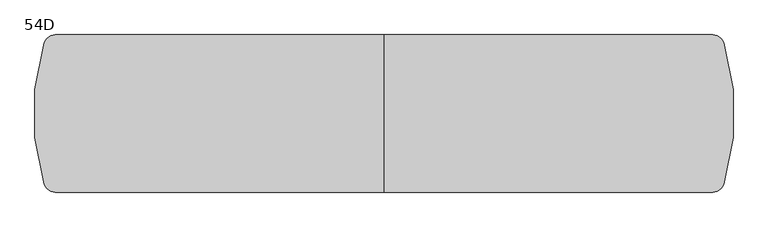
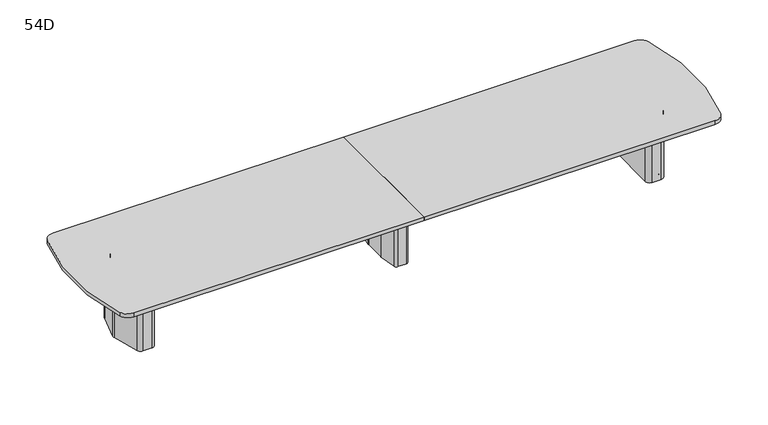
"""IFC4 building model written with IfcOpenShell, lengths in millimetres: furniture geometry, Coalesse_AM_Table_Conference_ETable2_SoftRadiused_20ft_ThreeBase : 54D."""

from ifc_helpers import new_model, si_unit, point, frame, frame_2d, origin, place, context, project, spatial, polyline, circle_curve, trimmed, segment, composite_curve, outline, extrude, source, transform, mapped, element, save
from ifc_brep_helpers import plane_surface, cylinder_surface, revolved_surface, advanced_brep


def furniture_54d_1fc843b9(model_context):
    return source(origin(), model_context, "Body", "SolidModel", [
        advanced_brep(
        [(35.71875, 206.375, 3.175), (10.31875, 231.775, 3.175), (-10.31875, 231.775, 3.175), (-35.71875, 206.375, 3.175), (-35.71875, -206.375, 3.175), (-10.31875, -231.775, 3.175), (10.31875, -231.775, 3.175), (35.71875, -206.375, 3.175), (-61.11875, 206.375, 0.0), (-10.31875, 257.175, 0.0), (10.31875, 257.175, 0.0), (61.11875, 206.375, 0.0), (61.11875, -206.375, 0.0), (10.31875, -257.175, 0.0), (-10.31875, -257.175, 0.0), (-61.11875, -206.375, 0.0), (-61.11875, -206.375, 3.175), (-61.11875, 206.375, 3.175), (-10.31875, -257.175, 3.175), (10.31875, -257.175, 3.175), (61.11875, -206.375, 3.175), (61.11875, 206.375, 3.175), (10.31875, 257.175, 3.175), (-10.31875, 257.175, 3.175), (-92.6215974, 106.2976848, 698.5), (-92.86875, 102.7629613, 698.5), (-92.86875, -102.7629613, 698.5), (-92.6215974, -106.2976848, 698.5), (-67.7988375, -282.9347235, 698.5), (-42.6459902, -304.8, 698.5), (42.6459902, -304.8, 698.5), (67.7988375, -282.9347235, 698.5), (92.6215974, -106.2976848, 698.5), (92.86875, -102.7629613, 698.5), (92.86875, 102.7629613, 698.5), (92.6215974, 106.2976848, 698.5), (67.7988375, 282.9347235, 698.5), (42.6459902, 304.8, 698.5), (-42.6459902, 304.8, 698.5), (-67.7988375, 282.9347235, 698.5), (10.31875, 231.775, 698.5), (35.71875, 206.375, 698.5), (35.71875, -206.375, 698.5), (10.31875, -231.775, 698.5), (-10.31875, -231.775, 698.5), (-35.71875, -206.375, 698.5), (-35.71875, 206.375, 698.5), (-10.31875, 231.775, 698.5), (-92.6215974, 106.2976848, 3.175), (-67.7988375, 282.9347235, 3.175), (-42.6459902, 304.8, 3.175), (42.6459902, 304.8, 3.175), (67.7988375, 282.9347235, 3.175), (92.6215974, 106.2976848, 3.175), (92.86875, 102.7629613, 3.175), (92.86875, -102.7629613, 3.175), (92.6215974, -106.2976848, 3.175), (67.7988375, -282.9347235, 3.175), (42.6459902, -304.8, 3.175), (-42.6459902, -304.8, 3.175), (-67.7988375, -282.9347235, 3.175), (-92.6215974, -106.2976848, 3.175), (-92.86875, -102.7629613, 3.175), (-92.86875, 102.7629613, 3.175)],
        [
            (0, 1, circle_curve(frame((10.31875, 206.375, 3.175), z_axis=(0.0, 0.0, 1.0), x_axis=(1.0, 0.0, 0.0)), 25.4)),
            (1, 2),
            (2, 3, circle_curve(frame((-10.31875, 206.375, 3.175), z_axis=(0.0, 0.0, 1.0), x_axis=(1.0, 0.0, 0.0)), 25.4)),
            (3, 4),
            (4, 5, circle_curve(frame((-10.31875, -206.375, 3.175), z_axis=(0.0, 0.0, 1.0), x_axis=(1.0, 0.0, 0.0)), 25.4)),
            (5, 6),
            (6, 7, circle_curve(frame((10.31875, -206.375, 3.175), z_axis=(0.0, 0.0, 1.0), x_axis=(1.0, 0.0, 0.0)), 25.4)),
            (7, 0),
            (8, 9, circle_curve(frame((-10.31875, 206.375, 0.0), z_axis=(0.0, 0.0, -1.0), x_axis=(1.0, 0.0, 0.0)), 50.8)),
            (9, 10),
            (10, 11, circle_curve(frame((10.31875, 206.375, 0.0), z_axis=(0.0, 0.0, -1.0), x_axis=(1.0, 0.0, 0.0)), 50.8)),
            (11, 12),
            (12, 13, circle_curve(frame((10.31875, -206.375, 0.0), z_axis=(0.0, 0.0, -1.0), x_axis=(1.0, 0.0, 0.0)), 50.8)),
            (13, 14),
            (14, 15, circle_curve(frame((-10.31875, -206.375, 0.0), z_axis=(0.0, 0.0, -1.0), x_axis=(1.0, 0.0, 0.0)), 50.8)),
            (15, 8),
            (15, 16),
            (16, 17),
            (17, 8),
            (14, 18),
            (18, 16, circle_curve(frame((-10.31875, -206.375, 3.175), z_axis=(0.0, 0.0, -1.0), x_axis=(1.0, 0.0, 0.0)), 50.8)),
            (13, 19),
            (19, 18),
            (12, 20),
            (20, 19, circle_curve(frame((10.31875, -206.375, 3.175), z_axis=(0.0, 0.0, -1.0), x_axis=(1.0, 0.0, 0.0)), 50.8)),
            (11, 21),
            (21, 20),
            (10, 22),
            (22, 21, circle_curve(frame((10.31875, 206.375, 3.175), z_axis=(0.0, 0.0, -1.0), x_axis=(1.0, 0.0, 0.0)), 50.8)),
            (9, 23),
            (23, 22),
            (17, 23, circle_curve(frame((-10.31875, 206.375, 3.175), z_axis=(0.0, 0.0, -1.0), x_axis=(1.0, 0.0, 0.0)), 50.8)),
            (24, 25, circle_curve(frame((-67.46875, 102.7629613, 698.5), z_axis=(0.0, 0.0, 1.0), x_axis=(1.0, 0.0, 0.0)), 25.4)),
            (25, 26),
            (26, 27, circle_curve(frame((-67.46875, -102.7629613, 698.5), z_axis=(0.0, 0.0, 1.0), x_axis=(1.0, 0.0, 0.0)), 25.4)),
            (27, 28),
            (28, 29, circle_curve(frame((-42.6459902, -279.4, 698.5), z_axis=(0.0, 0.0, 1.0), x_axis=(1.0, 0.0, 0.0)), 25.4)),
            (29, 30),
            (30, 31, circle_curve(frame((42.6459902, -279.4, 698.5), z_axis=(0.0, 0.0, 1.0), x_axis=(1.0, 0.0, 0.0)), 25.4)),
            (31, 32),
            (32, 33, circle_curve(frame((67.46875, -102.7629613, 698.5), z_axis=(0.0, 0.0, 1.0), x_axis=(1.0, 0.0, 0.0)), 25.4)),
            (33, 34),
            (34, 35, circle_curve(frame((67.46875, 102.7629613, 698.5), z_axis=(0.0, 0.0, 1.0), x_axis=(1.0, 0.0, 0.0)), 25.4)),
            (35, 36),
            (36, 37, circle_curve(frame((42.6459902, 279.4, 698.5), z_axis=(0.0, 0.0, 1.0), x_axis=(1.0, 0.0, 0.0)), 25.4)),
            (37, 38),
            (38, 39, circle_curve(frame((-42.6459902, 279.4, 698.5), z_axis=(0.0, 0.0, 1.0), x_axis=(1.0, 0.0, 0.0)), 25.4)),
            (39, 24),
            (40, 41, circle_curve(frame((10.31875, 206.375, 698.5), z_axis=(0.0, 0.0, -1.0), x_axis=(1.0, 0.0, 0.0)), 25.4)),
            (41, 42),
            (42, 43, circle_curve(frame((10.31875, -206.375, 698.5), z_axis=(0.0, 0.0, -1.0), x_axis=(1.0, 0.0, 0.0)), 25.4)),
            (43, 44),
            (44, 45, circle_curve(frame((-10.31875, -206.375, 698.5), z_axis=(0.0, 0.0, -1.0), x_axis=(1.0, 0.0, 0.0)), 25.4)),
            (45, 46),
            (46, 47, circle_curve(frame((-10.31875, 206.375, 698.5), z_axis=(0.0, 0.0, -1.0), x_axis=(1.0, 0.0, 0.0)), 25.4)),
            (47, 40),
            (48, 49),
            (49, 50, circle_curve(frame((-42.6459902, 279.4, 3.175), z_axis=(0.0, 0.0, -1.0), x_axis=(1.0, 0.0, 0.0)), 25.4)),
            (50, 51),
            (51, 52, circle_curve(frame((42.6459902, 279.4, 3.175), z_axis=(0.0, 0.0, -1.0), x_axis=(1.0, 0.0, 0.0)), 25.4)),
            (52, 53),
            (53, 54, circle_curve(frame((67.46875, 102.7629613, 3.175), z_axis=(0.0, 0.0, -1.0), x_axis=(1.0, 0.0, 0.0)), 25.4)),
            (54, 55),
            (55, 56, circle_curve(frame((67.46875, -102.7629613, 3.175), z_axis=(0.0, 0.0, -1.0), x_axis=(1.0, 0.0, 0.0)), 25.4)),
            (56, 57),
            (57, 58, circle_curve(frame((42.6459902, -279.4, 3.175), z_axis=(0.0, 0.0, -1.0), x_axis=(1.0, 0.0, 0.0)), 25.4)),
            (58, 59),
            (59, 60, circle_curve(frame((-42.6459902, -279.4, 3.175), z_axis=(0.0, 0.0, -1.0), x_axis=(1.0, 0.0, 0.0)), 25.4)),
            (60, 61),
            (61, 62, circle_curve(frame((-67.46875, -102.7629613, 3.175), z_axis=(0.0, 0.0, -1.0), x_axis=(1.0, 0.0, 0.0)), 25.4)),
            (62, 63),
            (63, 48, circle_curve(frame((-67.46875, 102.7629613, 3.175), z_axis=(0.0, 0.0, -1.0), x_axis=(1.0, 0.0, 0.0)), 25.4)),
            (24, 48),
            (63, 25),
            (62, 26),
            (61, 27),
            (60, 28),
            (59, 29),
            (58, 30),
            (57, 31),
            (56, 32),
            (55, 33),
            (54, 34),
            (53, 35),
            (52, 36),
            (51, 37),
            (50, 38),
            (49, 39),
            (40, 1),
            (0, 41),
            (7, 42),
            (6, 43),
            (5, 44),
            (4, 45),
            (3, 46),
            (2, 47),
        ],
        [
            plane_surface(frame((-61.11875, -206.375, 3.175), z_axis=(0.0, 0.0, 1.0), x_axis=(0.0, -1.0, 0.0))),
            plane_surface(frame((-61.11875, -206.375, 0.0), z_axis=(0.0, 0.0, -1.0), x_axis=(0.0, 1.0, 0.0))),
            plane_surface(frame((-61.11875, 206.375, 3.175), z_axis=(-1.0, 0.0, 0.0), x_axis=(0.0, 0.0, -1.0))),
            cylinder_surface(frame((-10.31875, -206.375, 0.0), z_axis=(0.0, 0.0, 1.0), x_axis=(1.0, 0.0, 0.0)), 50.8),
            plane_surface(frame((-10.31875, -257.175, 3.175), z_axis=(0.0, -1.0, 0.0), x_axis=(0.0, 0.0, -1.0))),
            cylinder_surface(frame((10.31875, -206.375, 0.0), z_axis=(0.0, 0.0, 1.0), x_axis=(1.0, 0.0, 0.0)), 50.8),
            plane_surface(frame((61.11875, -206.375, 3.175), z_axis=(1.0, 0.0, 0.0), x_axis=(0.0, 0.0, -1.0))),
            cylinder_surface(frame((10.31875, 206.375, 0.0), z_axis=(0.0, 0.0, 1.0), x_axis=(1.0, 0.0, 0.0)), 50.8),
            plane_surface(frame((10.31875, 257.175, 3.175), z_axis=(0.0, 1.0, 0.0), x_axis=(0.0, 0.0, -1.0))),
            cylinder_surface(frame((-10.31875, 206.375, 0.0), z_axis=(0.0, 0.0, 1.0), x_axis=(1.0, 0.0, 0.0)), 50.8),
            plane_surface(frame((-42.06875, 102.7629613, 698.5), z_axis=(0.0, 0.0, 1.0), x_axis=(0.0, 1.0, 0.0))),
            plane_surface(frame((-42.06875, 102.7629613, 3.175), z_axis=(0.0, 0.0, -1.0), x_axis=(0.0, -1.0, 0.0))),
            cylinder_surface(frame((-67.46875, 102.7629613, 3.175), z_axis=(0.0, 0.0, 1.0), x_axis=(1.0, 0.0, 0.0)), 25.4),
            plane_surface(frame((-92.86875, 102.7629613, 698.5), z_axis=(-1.0, 0.0, 0.0), x_axis=(0.0, 0.0, -1.0))),
            cylinder_surface(frame((-67.46875, -102.7629613, 3.175), z_axis=(0.0, 0.0, 1.0), x_axis=(1.0, 0.0, 0.0)), 25.4),
            plane_surface(frame((-92.6215974, -106.2976848, 698.5), z_axis=(-0.9902695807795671, -0.13916234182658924, 0.0), x_axis=(0.0, 0.0, -1.0))),
            cylinder_surface(frame((-42.6459902, -279.4, 3.175), z_axis=(0.0, 0.0, 1.0), x_axis=(1.0, 0.0, 0.0)), 25.4),
            plane_surface(frame((-42.6459902, -304.8, 698.5), z_axis=(0.0, -1.0, 0.0), x_axis=(0.0, 0.0, -1.0))),
            cylinder_surface(frame((42.6459902, -279.4, 3.175), z_axis=(0.0, 0.0, 1.0), x_axis=(1.0, 0.0, 0.0)), 25.4),
            plane_surface(frame((67.7988375, -282.9347235, 698.5), z_axis=(0.9902695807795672, -0.13916234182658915, 0.0), x_axis=(0.0, 0.0, -1.0))),
            cylinder_surface(frame((67.46875, -102.7629613, 3.175), z_axis=(0.0, 0.0, 1.0), x_axis=(1.0, 0.0, 0.0)), 25.4),
            plane_surface(frame((92.86875, -102.7629613, 698.5), z_axis=(1.0, 0.0, 0.0), x_axis=(0.0, 0.0, -1.0))),
            cylinder_surface(frame((67.46875, 102.7629613, 3.175), z_axis=(0.0, 0.0, 1.0), x_axis=(1.0, 0.0, 0.0)), 25.4),
            plane_surface(frame((92.6215974, 106.2976848, 698.5), z_axis=(0.9902695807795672, 0.1391623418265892, 0.0), x_axis=(0.0, 0.0, -1.0))),
            cylinder_surface(frame((42.6459902, 279.4, 3.175), z_axis=(0.0, 0.0, 1.0), x_axis=(1.0, 0.0, 0.0)), 25.4),
            plane_surface(frame((42.6459902, 304.8, 698.5), z_axis=(0.0, 1.0, 0.0), x_axis=(0.0, 0.0, -1.0))),
            cylinder_surface(frame((-42.6459902, 279.4, 3.175), z_axis=(0.0, 0.0, 1.0), x_axis=(1.0, 0.0, 0.0)), 25.4),
            plane_surface(frame((-67.7988375, 282.9347235, 698.5), z_axis=(-0.9902695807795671, 0.13916234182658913, 0.0), x_axis=(0.0, 0.0, -1.0))),
            revolved_surface(polyline([(35.71875, 206.375, 3.175), (35.71875, 206.375, 698.5)]), (10.31875, 206.375, 0.0), (0.0, 0.0, -1.0)),
            plane_surface(frame((35.71875, 206.375, 698.5), z_axis=(-1.0, 0.0, 0.0), x_axis=(0.0, 0.0, -1.0))),
            revolved_surface(polyline([(35.71875, -206.375, 3.175), (35.71875, -206.375, 698.5)]), (10.31875, -206.375, 0.0), (0.0, 0.0, -1.0)),
            plane_surface(frame((10.31875, -231.775, 698.5), z_axis=(0.0, 1.0, 0.0), x_axis=(0.0, 0.0, -1.0))),
            revolved_surface(polyline([(15.081249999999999, -206.375, 3.175), (15.081249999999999, -206.375, 698.5)]), (-10.31875, -206.375, 0.0), (0.0, 0.0, -1.0)),
            plane_surface(frame((-35.71875, -206.375, 698.5), z_axis=(1.0, 0.0, 0.0), x_axis=(0.0, 0.0, -1.0))),
            revolved_surface(polyline([(15.081249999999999, 206.375, 3.175), (15.081249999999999, 206.375, 698.5)]), (-10.31875, 206.375, 0.0), (0.0, 0.0, -1.0)),
            plane_surface(frame((-10.31875, 231.775, 698.5), z_axis=(0.0, -1.0, 0.0), x_axis=(0.0, 0.0, -1.0))),
        ],
        [
            (0, [[1, 2, 3, 4, 5, 6, 7, 8]]),
            (1, [[9, 10, 11, 12, 13, 14, 15, 16]]),
            (2, [[-16, 17, 18, 19]]),
            (3, [[-15, 20, 21, -17]]),
            (4, [[-14, 22, 23, -20]]),
            (5, [[-13, 24, 25, -22]]),
            (6, [[-12, 26, 27, -24]]),
            (7, [[-11, 28, 29, -26]]),
            (8, [[-10, 30, 31, -28]]),
            (9, [[-9, -19, 32, -30]]),
            (10, [[33, 34, 35, 36, 37, 38, 39, 40, 41, 42, 43, 44, 45, 46, 47, 48], [49, 50, 51, 52, 53, 54, 55, 56]]),
            (11, [[57, 58, 59, 60, 61, 62, 63, 64, 65, 66, 67, 68, 69, 70, 71, 72], [-18, -21, -23, -25, -27, -29, -31, -32]]),
            (12, [[-33, 73, -72, 74]]),
            (13, [[-34, -74, -71, 75]]),
            (14, [[-35, -75, -70, 76]]),
            (15, [[-36, -76, -69, 77]]),
            (16, [[-37, -77, -68, 78]]),
            (17, [[-38, -78, -67, 79]]),
            (18, [[-39, -79, -66, 80]]),
            (19, [[-40, -80, -65, 81]]),
            (20, [[-41, -81, -64, 82]]),
            (21, [[-42, -82, -63, 83]]),
            (22, [[-43, -83, -62, 84]]),
            (23, [[-44, -84, -61, 85]]),
            (24, [[-45, -85, -60, 86]]),
            (25, [[-46, -86, -59, 87]]),
            (26, [[-47, -87, -58, 88]]),
            (27, [[-48, -88, -57, -73]]),
            (28, [[-49, 89, -1, 90]]),
            (29, [[-50, -90, -8, 91]]),
            (30, [[-51, -91, -7, 92]]),
            (31, [[-52, -92, -6, 93]]),
            (32, [[-53, -93, -5, 94]]),
            (33, [[-54, -94, -4, 95]]),
            (34, [[-55, -95, -3, 96]]),
            (35, [[-56, -96, -2, -89]]),
        ],
    ),
        advanced_brep(
        [(2589.424548, 274.2093613, 698.5), (2549.5579246, 304.8, 698.5), (2460.625, 304.8, 698.5), (2419.35, 263.525, 698.5), (2419.35, -263.525, 698.5), (2460.625, -304.8, 698.5), (2549.5579246, -304.8, 698.5), (2589.424548, -274.2093613, 698.5), (2660.0503901, -10.6333708, 698.5), (2660.0503901, 10.6333708, 698.5), (2457.45, -206.375, 698.5), (2457.45, 206.375, 698.5), (2482.85, 231.775, 698.5), (2541.8608422, 231.775, 698.5), (2566.395338, 212.9490792, 698.5), (2605.0875, 68.54974, 698.5), (2605.0875, -68.54974, 698.5), (2566.395338, -212.9490792, 698.5), (2541.8608422, -231.775, 698.5), (2482.85, -231.775, 698.5), (2589.424548, 274.2093613, 3.175), (2660.0503901, 10.6333708, 3.175), (2660.0503901, -10.6333708, 3.175), (2589.424548, -274.2093613, 3.175), (2549.5579246, -304.8, 3.175), (2460.625, -304.8, 3.175), (2419.35, -263.525, 3.175), (2419.35, 263.525, 3.175), (2460.625, 304.8, 3.175), (2549.5579246, 304.8, 3.175), (2578.6625859, 216.2361187, 3.175), (2541.8608422, 244.475, 3.175), (2482.85, 244.475, 3.175), (2444.75, 206.375, 3.175), (2444.75, -206.375, 3.175), (2482.85, -244.475, 3.175), (2541.8608422, -244.475, 3.175), (2578.6625859, -216.2361187, 3.175), (2617.7875, -70.2217466, 3.175), (2617.7875, 70.2217466, 3.175), (2482.85, -231.775, 3.175), (2457.45, -206.375, 3.175), (2541.8608422, -231.775, 3.175), (2566.395338, -212.9490792, 3.175), (2605.0875, -68.54974, 3.175), (2605.0875, 68.54974, 3.175), (2566.395338, 212.9490792, 3.175), (2541.8608422, 231.775, 3.175), (2482.85, 231.775, 3.175), (2457.45, 206.375, 3.175), (2578.6625859, 216.2361187, 0.0), (2617.7875, 70.2217466, 0.0), (2617.7875, -70.2217466, 0.0), (2578.6625859, -216.2361187, 0.0), (2541.8608422, -244.475, 0.0), (2482.85, -244.475, 0.0), (2444.75, -206.375, 0.0), (2444.75, 206.375, 0.0), (2482.85, 244.475, 0.0), (2541.8608422, 244.475, 0.0)],
        [
            (0, 1, circle_curve(frame((2549.5579246, 263.5270004, 698.5), z_axis=(0.0, 0.0, 1.0), x_axis=(-1.0, 0.0, 0.0)), 41.2729996)),
            (1, 2),
            (2, 3, circle_curve(frame((2460.625, 263.525, 698.5), z_axis=(0.0, 0.0, 1.0), x_axis=(-1.0, 0.0, 0.0)), 41.275)),
            (3, 4),
            (4, 5, circle_curve(frame((2460.625, -263.525, 698.5), z_axis=(0.0, 0.0, 1.0), x_axis=(-1.0, 0.0, 0.0)), 41.275)),
            (5, 6),
            (6, 7, circle_curve(frame((2549.5579246, -263.5270004, 698.5), z_axis=(0.0, 0.0, 1.0), x_axis=(-1.0, 0.0, 0.0)), 41.2729996)),
            (7, 8),
            (8, 9, circle_curve(frame((2620.3665979, 0.0, 698.5), z_axis=(0.0, 0.0, 1.0), x_axis=(-1.0, 0.0, 0.0)), 41.0837187)),
            (9, 0),
            (10, 11),
            (11, 12, circle_curve(frame((2482.85, 206.375, 698.5), z_axis=(0.0, 0.0, -1.0), x_axis=(-1.0, 0.0, 0.0)), 25.4)),
            (12, 13),
            (13, 14, circle_curve(frame((2541.8608422, 206.375, 698.5), z_axis=(0.0, 0.0, -1.0), x_axis=(-1.0, 0.0, 0.0)), 25.4)),
            (14, 15),
            (15, 16),
            (16, 17),
            (17, 18, circle_curve(frame((2541.8608422, -206.375, 698.5), z_axis=(0.0, 0.0, -1.0), x_axis=(-1.0, 0.0, 0.0)), 25.4)),
            (18, 19),
            (19, 10, circle_curve(frame((2482.85, -206.375, 698.5), z_axis=(0.0, 0.0, -1.0), x_axis=(-1.0, 0.0, 0.0)), 25.4)),
            (20, 21),
            (21, 22, circle_curve(frame((2620.3665979, 0.0, 3.175), z_axis=(0.0, 0.0, -1.0), x_axis=(-1.0, 0.0, 0.0)), 41.0837187)),
            (22, 23),
            (23, 24, circle_curve(frame((2549.5579246, -263.5270004, 3.175), z_axis=(0.0, 0.0, -1.0), x_axis=(-1.0, 0.0, 0.0)), 41.2729996)),
            (24, 25),
            (25, 26, circle_curve(frame((2460.625, -263.525, 3.175), z_axis=(0.0, 0.0, -1.0), x_axis=(-1.0, 0.0, 0.0)), 41.275)),
            (26, 27),
            (27, 28, circle_curve(frame((2460.625, 263.525, 3.175), z_axis=(0.0, 0.0, -1.0), x_axis=(-1.0, 0.0, 0.0)), 41.275)),
            (28, 29),
            (29, 20, circle_curve(frame((2549.5579246, 263.5270004, 3.175), z_axis=(0.0, 0.0, -1.0), x_axis=(-1.0, 0.0, 0.0)), 41.2729996)),
            (30, 31, circle_curve(frame((2541.8608422, 206.375, 3.175), z_axis=(0.0, 0.0, 1.0), x_axis=(-1.0, 0.0, 0.0)), 38.1)),
            (31, 32),
            (32, 33, circle_curve(frame((2482.85, 206.375, 3.175), z_axis=(0.0, 0.0, 1.0), x_axis=(-1.0, 0.0, 0.0)), 38.1)),
            (33, 34),
            (34, 35, circle_curve(frame((2482.85, -206.375, 3.175), z_axis=(0.0, 0.0, 1.0), x_axis=(-1.0, 0.0, 0.0)), 38.1)),
            (35, 36),
            (36, 37, circle_curve(frame((2541.8608422, -206.375, 3.175), z_axis=(0.0, 0.0, 1.0), x_axis=(-1.0, 0.0, 0.0)), 38.1)),
            (37, 38),
            (38, 39),
            (39, 30),
            (9, 21),
            (20, 0),
            (8, 22),
            (7, 23),
            (6, 24),
            (5, 25),
            (4, 26),
            (3, 27),
            (2, 28),
            (1, 29),
            (19, 40),
            (40, 41, circle_curve(frame((2482.85, -206.375, 3.175), z_axis=(0.0, 0.0, -1.0), x_axis=(-1.0, 0.0, 0.0)), 25.4)),
            (41, 10),
            (18, 42),
            (42, 40),
            (17, 43),
            (43, 42, circle_curve(frame((2541.8608422, -206.375, 3.175), z_axis=(0.0, 0.0, -1.0), x_axis=(-1.0, 0.0, 0.0)), 25.4)),
            (16, 44),
            (44, 43),
            (15, 45),
            (45, 44),
            (14, 46),
            (46, 45),
            (13, 47),
            (47, 46, circle_curve(frame((2541.8608422, 206.375, 3.175), z_axis=(0.0, 0.0, -1.0), x_axis=(-1.0, 0.0, 0.0)), 25.4)),
            (12, 48),
            (48, 47),
            (11, 49),
            (49, 48, circle_curve(frame((2482.85, 206.375, 3.175), z_axis=(0.0, 0.0, -1.0), x_axis=(-1.0, 0.0, 0.0)), 25.4)),
            (41, 49),
            (50, 51),
            (51, 52),
            (52, 53),
            (53, 54, circle_curve(frame((2541.8608422, -206.375, 0.0), z_axis=(0.0, 0.0, -1.0), x_axis=(-1.0, 0.0, 0.0)), 38.1)),
            (54, 55),
            (55, 56, circle_curve(frame((2482.85, -206.375, 0.0), z_axis=(0.0, 0.0, -1.0), x_axis=(-1.0, 0.0, 0.0)), 38.1)),
            (56, 57),
            (57, 58, circle_curve(frame((2482.85, 206.375, 0.0), z_axis=(0.0, 0.0, -1.0), x_axis=(-1.0, 0.0, 0.0)), 38.1)),
            (58, 59),
            (59, 50, circle_curve(frame((2541.8608422, 206.375, 0.0), z_axis=(0.0, 0.0, -1.0), x_axis=(-1.0, 0.0, 0.0)), 38.1)),
            (50, 30),
            (39, 51),
            (38, 52),
            (37, 53),
            (36, 54),
            (35, 55),
            (34, 56),
            (33, 57),
            (32, 58),
            (31, 59),
        ],
        [
            plane_surface(frame((2660.0374275, 10.6817473, 698.5), z_axis=(0.0, 0.0, 1.0000000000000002), x_axis=(0.25882201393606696, -0.9659250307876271, 0.0))),
            plane_surface(frame((2660.0374275, 10.6817473, 3.175), z_axis=(0.0, 0.0, -1.0000000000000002), x_axis=(-0.25882201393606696, 0.9659250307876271, 0.0))),
            plane_surface(frame((2589.424548, 274.2093613, 698.5), z_axis=(0.9659250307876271, 0.25882201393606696, 0.0), x_axis=(0.0, 0.0, -1.0))),
            cylinder_surface(frame((2620.3665979, 0.0, 3.175), z_axis=(0.0, 0.0, 1.0), x_axis=(-1.0, 0.0, 0.0)), 41.0837187),
            plane_surface(frame((2660.0503901, -10.6333708, 698.5), z_axis=(0.9659250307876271, -0.2588220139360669, 0.0), x_axis=(0.0, 0.0, -1.0))),
            cylinder_surface(frame((2549.5579246, -263.5270004, 3.175), z_axis=(0.0, 0.0, 1.0), x_axis=(-1.0, 0.0, 0.0)), 41.2729996),
            plane_surface(frame((2549.5579246, -304.8, 698.5), z_axis=(0.0, -1.0, 0.0), x_axis=(0.0, 0.0, -1.0))),
            cylinder_surface(frame((2460.625, -263.525, 3.175), z_axis=(0.0, 0.0, 1.0), x_axis=(-1.0, 0.0, 0.0)), 41.275),
            plane_surface(frame((2419.35, -263.525, 698.5), z_axis=(-1.0, 0.0, 0.0), x_axis=(0.0, 0.0, -1.0))),
            cylinder_surface(frame((2460.625, 263.525, 3.175), z_axis=(0.0, 0.0, 1.0), x_axis=(-1.0, 0.0, 0.0)), 41.275),
            plane_surface(frame((2460.625, 304.8, 698.5), z_axis=(0.0, 1.0, 0.0), x_axis=(0.0, 0.0, -1.0))),
            cylinder_surface(frame((2549.5579246, 263.5270004, 3.175), z_axis=(0.0, 0.0, 1.0), x_axis=(-1.0, 0.0, 0.0)), 41.2729996),
            revolved_surface(polyline([(2457.45, -206.375, 3.175), (2457.45, -206.375, 698.5)]), (2482.85, -206.375, 0.0), (0.0, 0.0, -1.0)),
            plane_surface(frame((2482.85, -231.775, 698.5), z_axis=(0.0, 1.0, 0.0), x_axis=(0.0, 0.0, -1.0))),
            revolved_surface(polyline([(2516.4608422, -206.375, 3.175), (2516.4608422, -206.375, 698.5)]), (2541.8608422, -206.375, 0.0), (0.0, 0.0, -1.0)),
            plane_surface(frame((2566.395338, -212.9490792, 698.5), z_axis=(-0.9659250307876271, 0.2588220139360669, 0.0), x_axis=(0.0, 0.0, -1.0))),
            plane_surface(frame((2605.0875, -68.54974, 698.5), z_axis=(-1.0, 0.0, 0.0), x_axis=(0.0, 0.0, -1.0))),
            plane_surface(frame((2605.0875, 68.54974, 698.5), z_axis=(-0.9659250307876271, -0.25882201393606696, 0.0), x_axis=(0.0, 0.0, -1.0))),
            revolved_surface(polyline([(2516.4608422, 206.375, 3.175), (2516.4608422, 206.375, 698.5)]), (2541.8608422, 206.375, 0.0), (0.0, 0.0, -1.0)),
            plane_surface(frame((2541.8608422, 231.775, 698.5), z_axis=(0.0, -1.0, 0.0), x_axis=(0.0, 0.0, -1.0))),
            revolved_surface(polyline([(2457.45, 206.375, 3.175), (2457.45, 206.375, 698.5)]), (2482.85, 206.375, 0.0), (0.0, 0.0, -1.0)),
            plane_surface(frame((2457.45, 206.375, 698.5), z_axis=(1.0, 0.0, 0.0), x_axis=(0.0, 0.0, -1.0))),
            plane_surface(frame((2617.3547479, 71.8367796, 3.175), z_axis=(0.0, 0.0, 1.0), x_axis=(0.25882201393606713, -0.965925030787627, 0.0))),
            plane_surface(frame((2617.3547479, 71.8367796, 0.0), z_axis=(0.0, 0.0, -1.0), x_axis=(-0.25882201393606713, 0.965925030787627, 0.0))),
            plane_surface(frame((2578.6625859, 216.2361187, 3.175), z_axis=(0.965925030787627, 0.25882201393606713, 0.0), x_axis=(0.0, 0.0, -1.0))),
            plane_surface(frame((2617.7875, 70.2217466, 3.175), z_axis=(1.0, 0.0, 0.0), x_axis=(0.0, 0.0, -1.0))),
            plane_surface(frame((2617.7875, -70.2217466, 3.175), z_axis=(0.9659250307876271, -0.2588220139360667, 0.0), x_axis=(0.0, 0.0, -1.0))),
            cylinder_surface(frame((2541.8608422, -206.375, 0.0), z_axis=(0.0, 0.0, 1.0), x_axis=(-1.0, 0.0, 0.0)), 38.1),
            plane_surface(frame((2541.8608422, -244.475, 3.175), z_axis=(0.0, -1.0, 0.0), x_axis=(0.0, 0.0, -1.0))),
            cylinder_surface(frame((2482.85, -206.375, 0.0), z_axis=(0.0, 0.0, 1.0), x_axis=(-1.0, 0.0, 0.0)), 38.1),
            plane_surface(frame((2444.75, -206.375, 3.175), z_axis=(-1.0, 0.0, 0.0), x_axis=(0.0, 0.0, -1.0))),
            cylinder_surface(frame((2482.85, 206.375, 0.0), z_axis=(0.0, 0.0, 1.0), x_axis=(-1.0, 0.0, 0.0)), 38.1),
            plane_surface(frame((2482.85, 244.475, 3.175), z_axis=(0.0, 1.0, 0.0), x_axis=(0.0, 0.0, -1.0))),
            cylinder_surface(frame((2541.8608422, 206.375, 0.0), z_axis=(0.0, 0.0, 1.0), x_axis=(-1.0, 0.0, 0.0)), 38.1),
        ],
        [
            (0, [[1, 2, 3, 4, 5, 6, 7, 8, 9, 10], [11, 12, 13, 14, 15, 16, 17, 18, 19, 20]]),
            (1, [[21, 22, 23, 24, 25, 26, 27, 28, 29, 30], [31, 32, 33, 34, 35, 36, 37, 38, 39, 40]]),
            (2, [[41, -21, 42, -10]]),
            (3, [[43, -22, -41, -9]]),
            (4, [[44, -23, -43, -8]]),
            (5, [[45, -24, -44, -7]]),
            (6, [[46, -25, -45, -6]]),
            (7, [[47, -26, -46, -5]]),
            (8, [[48, -27, -47, -4]]),
            (9, [[49, -28, -48, -3]]),
            (10, [[50, -29, -49, -2]]),
            (11, [[-42, -30, -50, -1]]),
            (12, [[51, 52, 53, -20]]),
            (13, [[54, 55, -51, -19]]),
            (14, [[56, 57, -54, -18]]),
            (15, [[58, 59, -56, -17]]),
            (16, [[60, 61, -58, -16]]),
            (17, [[62, 63, -60, -15]]),
            (18, [[64, 65, -62, -14]]),
            (19, [[66, 67, -64, -13]]),
            (20, [[68, 69, -66, -12]]),
            (21, [[-53, 70, -68, -11]]),
            (22, [[-55, -57, -59, -61, -63, -65, -67, -69, -70, -52]]),
            (23, [[71, 72, 73, 74, 75, 76, 77, 78, 79, 80]]),
            (24, [[81, -40, 82, -71]]),
            (25, [[-82, -39, 83, -72]]),
            (26, [[-83, -38, 84, -73]]),
            (27, [[-84, -37, 85, -74]]),
            (28, [[-85, -36, 86, -75]]),
            (29, [[-86, -35, 87, -76]]),
            (30, [[-87, -34, 88, -77]]),
            (31, [[-88, -33, 89, -78]]),
            (32, [[-89, -32, 90, -79]]),
            (33, [[-90, -31, -81, -80]]),
        ],
    ),
        advanced_brep(
        [(-2589.424548, 274.2093613, 698.5), (-2660.0503901, 10.6333708, 698.5), (-2660.0503901, -10.6333708, 698.5), (-2589.424548, -274.2093613, 698.5), (-2549.5579246, -304.8, 698.5), (-2460.625, -304.8, 698.5), (-2419.35, -263.525, 698.5), (-2419.35, 263.525, 698.5), (-2460.625, 304.8, 698.5), (-2549.5579246, 304.8, 698.5), (-2457.45, -206.375, 698.5), (-2482.85, -231.775, 698.5), (-2541.8608422, -231.775, 698.5), (-2566.395338, -212.9490792, 698.5), (-2605.0875, -68.54974, 698.5), (-2605.0875, 68.54974, 698.5), (-2566.395338, 212.9490792, 698.5), (-2541.8608422, 231.775, 698.5), (-2482.85, 231.775, 698.5), (-2457.45, 206.375, 698.5), (-2589.424548, 274.2093613, 3.175), (-2549.5579246, 304.8, 3.175), (-2460.625, 304.8, 3.175), (-2419.35, 263.525, 3.175), (-2419.35, -263.525, 3.175), (-2460.625, -304.8, 3.175), (-2549.5579246, -304.8, 3.175), (-2589.424548, -274.2093613, 3.175), (-2660.0503901, -10.6333708, 3.175), (-2660.0503901, 10.6333708, 3.175), (-2578.6625859, 216.2361187, 3.175), (-2617.7875, 70.2217466, 3.175), (-2617.7875, -70.2217466, 3.175), (-2578.6625859, -216.2361187, 3.175), (-2541.8608422, -244.475, 3.175), (-2482.85, -244.475, 3.175), (-2444.75, -206.375, 3.175), (-2444.75, 206.375, 3.175), (-2482.85, 244.475, 3.175), (-2541.8608422, 244.475, 3.175), (-2457.45, -206.375, 3.175), (-2482.85, -231.775, 3.175), (-2541.8608422, -231.775, 3.175), (-2566.395338, -212.9490792, 3.175), (-2605.0875, -68.54974, 3.175), (-2605.0875, 68.54974, 3.175), (-2566.395338, 212.9490792, 3.175), (-2541.8608422, 231.775, 3.175), (-2482.85, 231.775, 3.175), (-2457.45, 206.375, 3.175), (-2578.6625859, 216.2361187, 0.0), (-2541.8608422, 244.475, 0.0), (-2482.85, 244.475, 0.0), (-2444.75, 206.375, 0.0), (-2444.75, -206.375, 0.0), (-2482.85, -244.475, 0.0), (-2541.8608422, -244.475, 0.0), (-2578.6625859, -216.2361187, 0.0), (-2617.7875, -70.2217466, 0.0), (-2617.7875, 70.2217466, 0.0)],
        [
            (0, 1),
            (1, 2, circle_curve(frame((-2620.3665979, 0.0, 698.5), z_axis=(0.0, 0.0, 1.0), x_axis=(1.0, 0.0, 0.0)), 41.0837187)),
            (2, 3),
            (3, 4, circle_curve(frame((-2549.5579246, -263.5270004, 698.5), z_axis=(0.0, 0.0, 1.0), x_axis=(1.0, 0.0, 0.0)), 41.2729996)),
            (4, 5),
            (5, 6, circle_curve(frame((-2460.625, -263.525, 698.5), z_axis=(0.0, 0.0, 1.0), x_axis=(1.0, 0.0, 0.0)), 41.275)),
            (6, 7),
            (7, 8, circle_curve(frame((-2460.625, 263.525, 698.5), z_axis=(0.0, 0.0, 1.0), x_axis=(1.0, 0.0, 0.0)), 41.275)),
            (8, 9),
            (9, 0, circle_curve(frame((-2549.5579246, 263.5270004, 698.5), z_axis=(0.0, 0.0, 1.0), x_axis=(1.0, 0.0, 0.0)), 41.2729996)),
            (10, 11, circle_curve(frame((-2482.85, -206.375, 698.5), z_axis=(0.0, 0.0, -1.0), x_axis=(1.0, 0.0, 0.0)), 25.4)),
            (11, 12),
            (12, 13, circle_curve(frame((-2541.8608422, -206.375, 698.5), z_axis=(0.0, 0.0, -1.0), x_axis=(1.0, 0.0, 0.0)), 25.4)),
            (13, 14),
            (14, 15),
            (15, 16),
            (16, 17, circle_curve(frame((-2541.8608422, 206.375, 698.5), z_axis=(0.0, 0.0, -1.0), x_axis=(1.0, 0.0, 0.0)), 25.4)),
            (17, 18),
            (18, 19, circle_curve(frame((-2482.85, 206.375, 698.5), z_axis=(0.0, 0.0, -1.0), x_axis=(1.0, 0.0, 0.0)), 25.4)),
            (19, 10),
            (20, 21, circle_curve(frame((-2549.5579246, 263.5270004, 3.175), z_axis=(0.0, 0.0, -1.0), x_axis=(1.0, 0.0, 0.0)), 41.2729996)),
            (21, 22),
            (22, 23, circle_curve(frame((-2460.625, 263.525, 3.175), z_axis=(0.0, 0.0, -1.0), x_axis=(1.0, 0.0, 0.0)), 41.275)),
            (23, 24),
            (24, 25, circle_curve(frame((-2460.625, -263.525, 3.175), z_axis=(0.0, 0.0, -1.0), x_axis=(1.0, 0.0, 0.0)), 41.275)),
            (25, 26),
            (26, 27, circle_curve(frame((-2549.5579246, -263.5270004, 3.175), z_axis=(0.0, 0.0, -1.0), x_axis=(1.0, 0.0, 0.0)), 41.2729996)),
            (27, 28),
            (28, 29, circle_curve(frame((-2620.3665979, 0.0, 3.175), z_axis=(0.0, 0.0, -1.0), x_axis=(1.0, 0.0, 0.0)), 41.0837187)),
            (29, 20),
            (30, 31),
            (31, 32),
            (32, 33),
            (33, 34, circle_curve(frame((-2541.8608422, -206.375, 3.175), z_axis=(0.0, 0.0, 1.0), x_axis=(1.0, 0.0, 0.0)), 38.1)),
            (34, 35),
            (35, 36, circle_curve(frame((-2482.85, -206.375, 3.175), z_axis=(0.0, 0.0, 1.0), x_axis=(1.0, 0.0, 0.0)), 38.1)),
            (36, 37),
            (37, 38, circle_curve(frame((-2482.85, 206.375, 3.175), z_axis=(0.0, 0.0, 1.0), x_axis=(1.0, 0.0, 0.0)), 38.1)),
            (38, 39),
            (39, 30, circle_curve(frame((-2541.8608422, 206.375, 3.175), z_axis=(0.0, 0.0, 1.0), x_axis=(1.0, 0.0, 0.0)), 38.1)),
            (0, 20),
            (29, 1),
            (28, 2),
            (27, 3),
            (26, 4),
            (25, 5),
            (24, 6),
            (23, 7),
            (22, 8),
            (21, 9),
            (10, 40),
            (40, 41, circle_curve(frame((-2482.85, -206.375, 3.175), z_axis=(0.0, 0.0, -1.0), x_axis=(1.0, 0.0, 0.0)), 25.4)),
            (41, 11),
            (41, 42),
            (42, 12),
            (42, 43, circle_curve(frame((-2541.8608422, -206.375, 3.175), z_axis=(0.0, 0.0, -1.0), x_axis=(1.0, 0.0, 0.0)), 25.4)),
            (43, 13),
            (43, 44),
            (44, 14),
            (44, 45),
            (45, 15),
            (45, 46),
            (46, 16),
            (46, 47, circle_curve(frame((-2541.8608422, 206.375, 3.175), z_axis=(0.0, 0.0, -1.0), x_axis=(1.0, 0.0, 0.0)), 25.4)),
            (47, 17),
            (47, 48),
            (48, 18),
            (48, 49, circle_curve(frame((-2482.85, 206.375, 3.175), z_axis=(0.0, 0.0, -1.0), x_axis=(1.0, 0.0, 0.0)), 25.4)),
            (49, 19),
            (49, 40),
            (50, 51, circle_curve(frame((-2541.8608422, 206.375, 0.0), z_axis=(0.0, 0.0, -1.0), x_axis=(1.0, 0.0, 0.0)), 38.1)),
            (51, 52),
            (52, 53, circle_curve(frame((-2482.85, 206.375, 0.0), z_axis=(0.0, 0.0, -1.0), x_axis=(1.0, 0.0, 0.0)), 38.1)),
            (53, 54),
            (54, 55, circle_curve(frame((-2482.85, -206.375, 0.0), z_axis=(0.0, 0.0, -1.0), x_axis=(1.0, 0.0, 0.0)), 38.1)),
            (55, 56),
            (56, 57, circle_curve(frame((-2541.8608422, -206.375, 0.0), z_axis=(0.0, 0.0, -1.0), x_axis=(1.0, 0.0, 0.0)), 38.1)),
            (57, 58),
            (58, 59),
            (59, 50),
            (59, 31),
            (30, 50),
            (58, 32),
            (57, 33),
            (56, 34),
            (55, 35),
            (54, 36),
            (53, 37),
            (52, 38),
            (51, 39),
        ],
        [
            plane_surface(frame((-2660.0374275, 10.6817473, 698.5), z_axis=(0.0, 0.0, 1.0000000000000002), x_axis=(-0.25882201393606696, -0.9659250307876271, 0.0))),
            plane_surface(frame((-2660.0374275, 10.6817473, 3.175), z_axis=(0.0, 0.0, -1.0000000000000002), x_axis=(0.25882201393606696, 0.9659250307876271, 0.0))),
            plane_surface(frame((-2589.424548, 274.2093613, 698.5), z_axis=(-0.9659250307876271, 0.25882201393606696, 0.0), x_axis=(0.0, 0.0, -1.0))),
            cylinder_surface(frame((-2620.3665979, 0.0, 3.175), z_axis=(0.0, 0.0, 1.0), x_axis=(1.0, 0.0, 0.0)), 41.0837187),
            plane_surface(frame((-2660.0503901, -10.6333708, 698.5), z_axis=(-0.9659250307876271, -0.2588220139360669, 0.0), x_axis=(0.0, 0.0, -1.0))),
            cylinder_surface(frame((-2549.5579246, -263.5270004, 3.175), z_axis=(0.0, 0.0, 1.0), x_axis=(1.0, 0.0, 0.0)), 41.2729996),
            plane_surface(frame((-2549.5579246, -304.8, 698.5), z_axis=(0.0, -1.0, 0.0), x_axis=(0.0, 0.0, -1.0))),
            cylinder_surface(frame((-2460.625, -263.525, 3.175), z_axis=(0.0, 0.0, 1.0), x_axis=(1.0, 0.0, 0.0)), 41.275),
            plane_surface(frame((-2419.35, -263.525, 698.5), z_axis=(1.0, 0.0, 0.0), x_axis=(0.0, 0.0, -1.0))),
            cylinder_surface(frame((-2460.625, 263.525, 3.175), z_axis=(0.0, 0.0, 1.0), x_axis=(1.0, 0.0, 0.0)), 41.275),
            plane_surface(frame((-2460.625, 304.8, 698.5), z_axis=(0.0, 1.0, 0.0), x_axis=(0.0, 0.0, -1.0))),
            cylinder_surface(frame((-2549.5579246, 263.5270004, 3.175), z_axis=(0.0, 0.0, 1.0), x_axis=(1.0, 0.0, 0.0)), 41.2729996),
            revolved_surface(polyline([(-2457.45, -206.375, 3.175), (-2457.45, -206.375, 698.5)]), (-2482.85, -206.375, 0.0), (0.0, 0.0, -1.0)),
            plane_surface(frame((-2482.85, -231.775, 698.5), z_axis=(0.0, 1.0, 0.0), x_axis=(0.0, 0.0, -1.0))),
            revolved_surface(polyline([(-2516.4608422, -206.375, 3.175), (-2516.4608422, -206.375, 698.5)]), (-2541.8608422, -206.375, 0.0), (0.0, 0.0, -1.0)),
            plane_surface(frame((-2566.395338, -212.9490792, 698.5), z_axis=(0.9659250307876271, 0.2588220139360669, 0.0), x_axis=(0.0, 0.0, -1.0))),
            plane_surface(frame((-2605.0875, -68.54974, 698.5), z_axis=(1.0, 0.0, 0.0), x_axis=(0.0, 0.0, -1.0))),
            plane_surface(frame((-2605.0875, 68.54974, 698.5), z_axis=(0.9659250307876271, -0.25882201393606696, 0.0), x_axis=(0.0, 0.0, -1.0))),
            revolved_surface(polyline([(-2516.4608422, 206.375, 3.175), (-2516.4608422, 206.375, 698.5)]), (-2541.8608422, 206.375, 0.0), (0.0, 0.0, -1.0)),
            plane_surface(frame((-2541.8608422, 231.775, 698.5), z_axis=(0.0, -1.0, 0.0), x_axis=(0.0, 0.0, -1.0))),
            revolved_surface(polyline([(-2457.45, 206.375, 3.175), (-2457.45, 206.375, 698.5)]), (-2482.85, 206.375, 0.0), (0.0, 0.0, -1.0)),
            plane_surface(frame((-2457.45, 206.375, 698.5), z_axis=(-1.0, 0.0, 0.0), x_axis=(0.0, 0.0, -1.0))),
            plane_surface(frame((-2617.3547479, 71.8367796, 3.175), z_axis=(0.0, 0.0, 1.0), x_axis=(-0.25882201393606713, -0.965925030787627, 0.0))),
            plane_surface(frame((-2617.3547479, 71.8367796, 0.0), z_axis=(0.0, 0.0, -1.0), x_axis=(0.25882201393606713, 0.965925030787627, 0.0))),
            plane_surface(frame((-2578.6625859, 216.2361187, 3.175), z_axis=(-0.965925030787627, 0.25882201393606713, 0.0), x_axis=(0.0, 0.0, -1.0))),
            plane_surface(frame((-2617.7875, 70.2217466, 3.175), z_axis=(-1.0, 0.0, 0.0), x_axis=(0.0, 0.0, -1.0))),
            plane_surface(frame((-2617.7875, -70.2217466, 3.175), z_axis=(-0.9659250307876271, -0.2588220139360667, 0.0), x_axis=(0.0, 0.0, -1.0))),
            cylinder_surface(frame((-2541.8608422, -206.375, 0.0), z_axis=(0.0, 0.0, 1.0), x_axis=(1.0, 0.0, 0.0)), 38.1),
            plane_surface(frame((-2541.8608422, -244.475, 3.175), z_axis=(0.0, -1.0, 0.0), x_axis=(0.0, 0.0, -1.0))),
            cylinder_surface(frame((-2482.85, -206.375, 0.0), z_axis=(0.0, 0.0, 1.0), x_axis=(1.0, 0.0, 0.0)), 38.1),
            plane_surface(frame((-2444.75, -206.375, 3.175), z_axis=(1.0, 0.0, 0.0), x_axis=(0.0, 0.0, -1.0))),
            cylinder_surface(frame((-2482.85, 206.375, 0.0), z_axis=(0.0, 0.0, 1.0), x_axis=(1.0, 0.0, 0.0)), 38.1),
            plane_surface(frame((-2482.85, 244.475, 3.175), z_axis=(0.0, 1.0, 0.0), x_axis=(0.0, 0.0, -1.0))),
            cylinder_surface(frame((-2541.8608422, 206.375, 0.0), z_axis=(0.0, 0.0, 1.0), x_axis=(1.0, 0.0, 0.0)), 38.1),
        ],
        [
            (0, [[1, 2, 3, 4, 5, 6, 7, 8, 9, 10], [11, 12, 13, 14, 15, 16, 17, 18, 19, 20]]),
            (1, [[21, 22, 23, 24, 25, 26, 27, 28, 29, 30], [31, 32, 33, 34, 35, 36, 37, 38, 39, 40]]),
            (2, [[-1, 41, -30, 42]]),
            (3, [[-2, -42, -29, 43]]),
            (4, [[-3, -43, -28, 44]]),
            (5, [[-4, -44, -27, 45]]),
            (6, [[-5, -45, -26, 46]]),
            (7, [[-6, -46, -25, 47]]),
            (8, [[-7, -47, -24, 48]]),
            (9, [[-8, -48, -23, 49]]),
            (10, [[-9, -49, -22, 50]]),
            (11, [[-10, -50, -21, -41]]),
            (12, [[-11, 51, 52, 53]]),
            (13, [[-12, -53, 54, 55]]),
            (14, [[-13, -55, 56, 57]]),
            (15, [[-14, -57, 58, 59]]),
            (16, [[-15, -59, 60, 61]]),
            (17, [[-16, -61, 62, 63]]),
            (18, [[-17, -63, 64, 65]]),
            (19, [[-18, -65, 66, 67]]),
            (20, [[-19, -67, 68, 69]]),
            (21, [[-20, -69, 70, -51]]),
            (22, [[-52, -70, -68, -66, -64, -62, -60, -58, -56, -54]]),
            (23, [[71, 72, 73, 74, 75, 76, 77, 78, 79, 80]]),
            (24, [[-80, 81, -31, 82]]),
            (25, [[-79, 83, -32, -81]]),
            (26, [[-78, 84, -33, -83]]),
            (27, [[-77, 85, -34, -84]]),
            (28, [[-76, 86, -35, -85]]),
            (29, [[-75, 87, -36, -86]]),
            (30, [[-74, 88, -37, -87]]),
            (31, [[-73, 89, -38, -88]]),
            (32, [[-72, 90, -39, -89]]),
            (33, [[-71, -82, -40, -90]]),
        ],
    ),
        extrude(outline(composite_curve([segment(trimmed(circle_curve(frame_2d((2858.8557965, 584.2)), 101.6), [point((2858.8557965, 685.8))], [point((2954.6453259, 618.0662966))], False, "CARTESIAN"), True, "CONTINUOUS"), segment(polyline([(2954.6453259, 618.0662966), (2955.3956256, 615.9441026)]), True, "CONTINUOUS"), segment(trimmed(circle_curve(frame_2d((953.2679193, 0.0)), 2094.7320807), [point((2955.3956256, 615.9441026))], [point((2955.3956256, -615.9441026))], False, "CARTESIAN"), True, "CONTINUOUS"), segment(polyline([(2955.3956256, -615.9441026), (2954.6453259, -618.0662966)]), True, "CONTINUOUS"), segment(trimmed(circle_curve(frame_2d((2858.8557965, -584.2)), 101.6), [point((2954.6453259, -618.0662966))], [point((2858.8557965, -685.8))], False, "CARTESIAN"), True, "CONTINUOUS"), segment(polyline([(2858.8557965, -685.8), (0.0, -685.8), (0.0, 685.8), (2858.8557965, 685.8)]), True, "CONTINUOUS")], self_intersect=False)), frame((0.0, 0.0, 698.5), z_axis=(0.0, 0.0, 1.0), x_axis=(1.0, 0.0, 0.0)), (0.0, 0.0, 1.0), 38.1),
        extrude(outline(composite_curve([segment(polyline([(-2858.8557965, 685.8), (0.0, 685.8), (0.0, -685.8), (-2858.8557965, -685.8)]), True, "CONTINUOUS"), segment(trimmed(circle_curve(frame_2d((-2858.8557965, -584.2)), 101.6), [point((-2858.8557965, -685.8))], [point((-2954.6453259, -618.0662966))], False, "CARTESIAN"), True, "CONTINUOUS"), segment(polyline([(-2954.6453259, -618.0662966), (-2955.3956256, -615.9441026)]), True, "CONTINUOUS"), segment(trimmed(circle_curve(frame_2d((-953.2679193, 0.0)), 2094.7320807), [point((-2955.3956256, -615.9441026))], [point((-2955.3956256, 615.9441026))], False, "CARTESIAN"), True, "CONTINUOUS"), segment(polyline([(-2955.3956256, 615.9441026), (-2954.6453259, 618.0662966)]), True, "CONTINUOUS"), segment(trimmed(circle_curve(frame_2d((-2858.8557965, 584.2)), 101.6), [point((-2954.6453259, 618.0662966))], [point((-2858.8557965, 685.8))], False, "CARTESIAN"), True, "CONTINUOUS")], self_intersect=False)), frame((0.0, 0.0, 698.5), z_axis=(0.0, 0.0, 1.0), x_axis=(1.0, 0.0, 0.0)), (0.0, 0.0, 1.0), 38.1),
        extrude(outline(polyline([(96.8375, 698.5), (103.1875, 698.5), (103.1875, 476.25), (-103.1875, 476.25), (-103.1875, 698.5), (-96.8375, 698.5), (-96.8375, 482.6), (96.8375, 482.6), (96.8375, 698.5)])), frame((-2419.35, 0.0, 0.0), z_axis=(1.0, 0.0, 0.0), x_axis=(0.0, 1.0, 0.0)), (0.0, 0.0, 1.0), 4838.7),
    ])


if __name__ == "__main__":
    model = new_model("IFC4")
    model_context = context("Model", 3, world=origin())
    ifc_project = project(units=[si_unit("LENGTHUNIT", "METRE", prefix="MILLI")], contexts=[model_context])
    site = spatial("IfcSite", under=ifc_project)
    building = spatial("IfcBuilding", under=site)
    placement = place(None, origin())
    furniture_54d_shape = furniture_54d_1fc843b9(model_context)
    element("IfcFurniture", 1, ObjectType="Coalesse_AM_Table_Conference_ETable2_SoftRadiused_20ft_ThreeBase : 54D", at=placement, inside=building, context=model_context, shape_type="MappedRepresentation", body=[
        mapped(furniture_54d_shape, transform((0.0, 0.0, 0.0), x_axis=(1.0, 0.0, 0.0), y_axis=(0.0, 1.0, 0.0), z_axis=(0.0, 0.0, 1.0))),
    ])
    save(model, "model.ifc")
